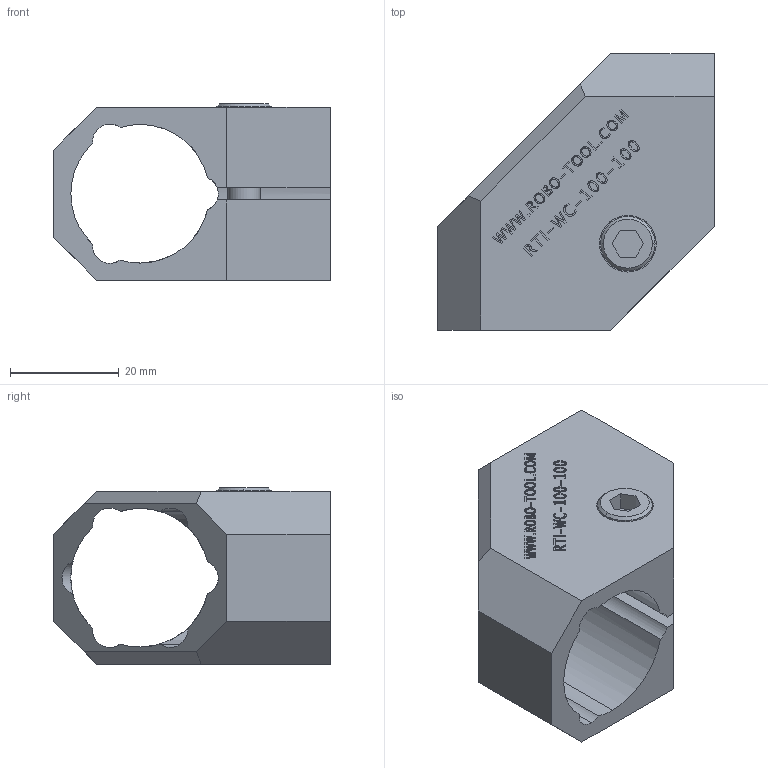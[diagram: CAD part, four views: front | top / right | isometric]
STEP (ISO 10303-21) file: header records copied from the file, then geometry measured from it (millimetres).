
FILE_DESCRIPTION (( 'STEP AP214' ), '1' );
FILE_NAME ('RTI-WC-100-100.STEP', '2013-10-22T20:25:25', ( 'user' ), ( '' ), 'SwSTEP 2.0', 'SolidWorks 2009', '' );
FILE_SCHEMA (( 'AUTOMOTIVE_DESIGN' ));
Length unit declared in the file: inch
Products named in the file (4): RTI-WC-100-100; M6 WASHER; M6 S.H.C.S._M6x25mm
Assembly tree (3 placements, depth 2):
  RTI-WC-100-100
    RTI-WC-100-100
    M6 S.H.C.S._M6x25mm
    M6 WASHER
Bounding box: 50.8 x 50.8 x 32.4 mm (x, y, z)
Volume: 25703.4 mm3; surface area: 13164.8 mm2
Topology: 3 solids, 3 shells, 389 faces, 1005 edges, 668 vertices
Faces by surface type: plane 244, bspline 106, cylinder 35, cone 4
Entity records: 18495 total; most frequent: CARTESIAN_POINT 9559, ORIENTED_EDGE 2010, DIRECTION 1397, EDGE_CURVE 1005, LINE 717, VECTOR 717, VERTEX_POINT 668, EDGE_LOOP 443
